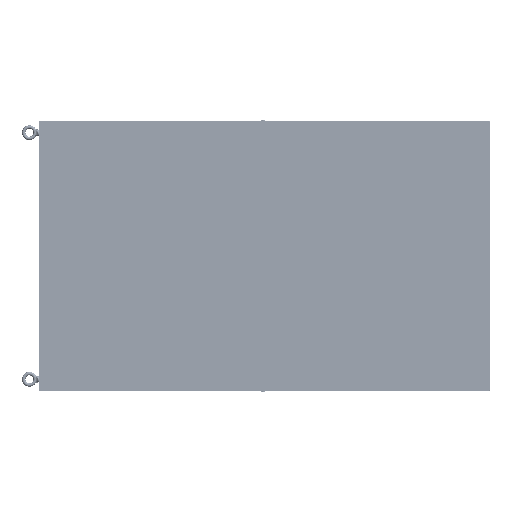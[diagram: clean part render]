
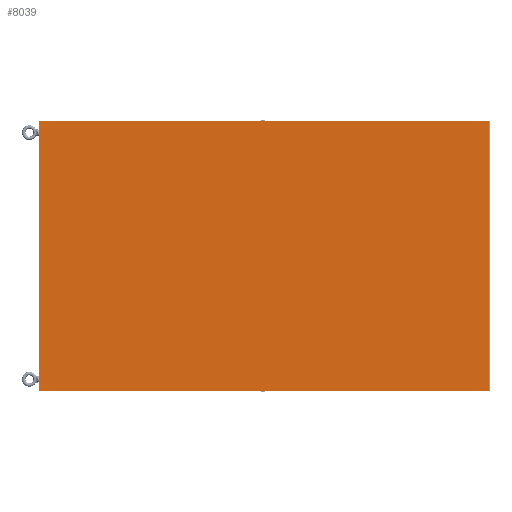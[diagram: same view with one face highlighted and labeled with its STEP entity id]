
A CAD part, front view. The second image highlights one B-rep face of the part: STEP entity #8039.
In plain terms, the highlighted planar face has unit normal (0, -1, 0).
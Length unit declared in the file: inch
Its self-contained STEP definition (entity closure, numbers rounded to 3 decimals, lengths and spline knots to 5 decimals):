
#7808=CARTESIAN_POINT('',(-39.251,0.,-23.503));
#7809=DIRECTION('',(0.,-1.,0.));
#7810=DIRECTION('',(-1.,0.,0.));
#7811=AXIS2_PLACEMENT_3D('',#7808,#7809,#7810);
#7816=DIRECTION('',(0.,0.,-1.));
#7817=VECTOR('',#7816,47.006);
#7818=CARTESIAN_POINT('',(-39.266,0.,23.503));
#7819=LINE('',#7818,#7817);
#7823=CARTESIAN_POINT('',(-39.251,0.,23.503));
#7824=DIRECTION('',(0.,-1.,0.));
#7825=DIRECTION('',(0.,0.,1.));
#7826=AXIS2_PLACEMENT_3D('',#7823,#7824,#7825);
#7831=CARTESIAN_POINT('',(39.251,0.,23.503));
#7832=DIRECTION('',(0.,-1.,0.));
#7833=DIRECTION('',(1.,0.,0.));
#7834=AXIS2_PLACEMENT_3D('',#7831,#7832,#7833);
#7839=CARTESIAN_POINT('',(39.251,0.,-23.503));
#7840=DIRECTION('',(0.,-1.,0.));
#7841=DIRECTION('',(0.,0.,-1.));
#7842=AXIS2_PLACEMENT_3D('',#7839,#7840,#7841);
#7854=DIRECTION('',(1.,0.,0.));
#7855=VECTOR('',#7854,78.502);
#7856=CARTESIAN_POINT('',(-39.251,0.,-23.518));
#7857=LINE('',#7856,#7855);
#7896=DIRECTION('',(0.,0.,-1.));
#7897=VECTOR('',#7896,47.006);
#7898=CARTESIAN_POINT('',(39.266,0.,23.503));
#7899=LINE('',#7898,#7897);
#7924=DIRECTION('',(1.,0.,0.));
#7925=VECTOR('',#7924,78.502);
#7926=CARTESIAN_POINT('',(-39.251,0.,23.518));
#7927=LINE('',#7926,#7925);
#7984=CARTESIAN_POINT('',(-39.266,0.,-23.503));
#7985=CARTESIAN_POINT('',(-39.251,0.,-23.518));
#7986=VERTEX_POINT('',#7984);
#7987=VERTEX_POINT('',#7985);
#7992=CARTESIAN_POINT('',(-39.251,0.,23.518));
#7993=CARTESIAN_POINT('',(-39.266,0.,23.503));
#7994=VERTEX_POINT('',#7992);
#7995=VERTEX_POINT('',#7993);
#8000=CARTESIAN_POINT('',(39.266,0.,23.503));
#8001=CARTESIAN_POINT('',(39.251,0.,23.518));
#8002=VERTEX_POINT('',#8000);
#8003=VERTEX_POINT('',#8001);
#8008=CARTESIAN_POINT('',(39.251,0.,-23.518));
#8009=CARTESIAN_POINT('',(39.266,0.,-23.503));
#8010=VERTEX_POINT('',#8008);
#8011=VERTEX_POINT('',#8009);
#8016=CARTESIAN_POINT('',(-39.266,0.,23.518));
#8017=DIRECTION('',(0.,-1.,0.));
#8018=DIRECTION('',(1.,0.,0.));
#8019=AXIS2_PLACEMENT_3D('',#8016,#8017,#8018);
#8020=PLANE('',#8019);
#8022=ORIENTED_EDGE('',*,*,#8021,.F.);
#8024=ORIENTED_EDGE('',*,*,#8023,.F.);
#8026=ORIENTED_EDGE('',*,*,#8025,.F.);
#8028=ORIENTED_EDGE('',*,*,#8027,.T.);
#8030=ORIENTED_EDGE('',*,*,#8029,.F.);
#8032=ORIENTED_EDGE('',*,*,#8031,.T.);
#8034=ORIENTED_EDGE('',*,*,#8033,.F.);
#8036=ORIENTED_EDGE('',*,*,#8035,.F.);
#8037=EDGE_LOOP('',(#8022,#8024,#8026,#8028,#8030,#8032,#8034,#8036));
#8038=FACE_OUTER_BOUND('',#8037,.F.);
#7812=CIRCLE('',#7811,0.015);
#7827=CIRCLE('',#7826,0.015);
#7835=CIRCLE('',#7834,0.015);
#7843=CIRCLE('',#7842,0.015);
#8021=EDGE_CURVE('',#7986,#7987,#7812,.T.);
#8023=EDGE_CURVE('',#7995,#7986,#7819,.T.);
#8025=EDGE_CURVE('',#7994,#7995,#7827,.T.);
#8027=EDGE_CURVE('',#7994,#8003,#7927,.T.);
#8029=EDGE_CURVE('',#8002,#8003,#7835,.T.);
#8031=EDGE_CURVE('',#8002,#8011,#7899,.T.);
#8033=EDGE_CURVE('',#8010,#8011,#7843,.T.);
#8035=EDGE_CURVE('',#7987,#8010,#7857,.T.);
#8039=ADVANCED_FACE('',(#8038),#8020,.T.);
